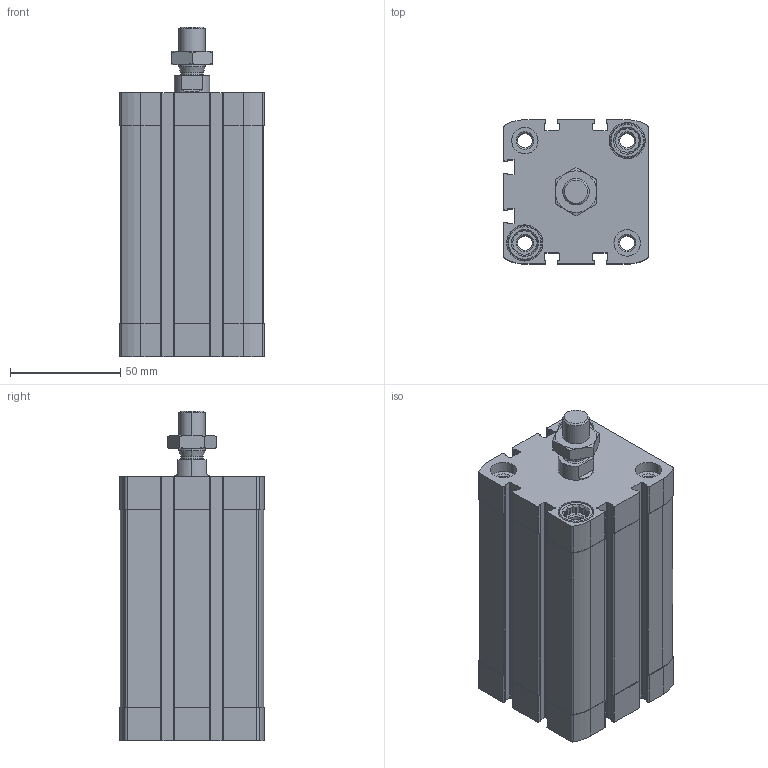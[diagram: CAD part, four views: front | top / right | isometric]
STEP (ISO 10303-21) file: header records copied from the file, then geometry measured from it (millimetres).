
FILE_DESCRIPTION (( 'STEP AP203' ), '1' );
FILE_NAME ('CCN50-75M.STEP', '2017-04-05T13:32:42', ( '' ), ( '' ), 'SwSTEP 2.0', 'SolidWorks 2016', '' );
FILE_SCHEMA (( 'CONFIG_CONTROL_DESIGN' ));
Length unit declared in the file: millimetre
Products named in the file (4): CCN-75_(KS); _DIN-439-B - M12x1.25(F); CCN50-75M; CCN-75---(Z)
Assembly tree (3 placements, depth 2):
  CCN50-75M
    CCN-75---(Z)
    CCN-75_(KS)
    _DIN-439-B - M12x1.25(F)
Bounding box: 65.5 x 65.5 x 149.7 mm (x, y, z)
Volume: 332818.2 mm3; surface area: 91946.5 mm2
Topology: 3 solids, 3 shells, 491 faces, 1322 edges, 868 vertices
Faces by surface type: plane 227, cylinder 212, cone 48, bspline 4
Entity records: 16132 total; most frequent: CARTESIAN_POINT 3147, DIRECTION 2684, ORIENTED_EDGE 2644, EDGE_CURVE 1322, AXIS2_PLACEMENT_3D 983, VERTEX_POINT 868, LINE 718, VECTOR 718
